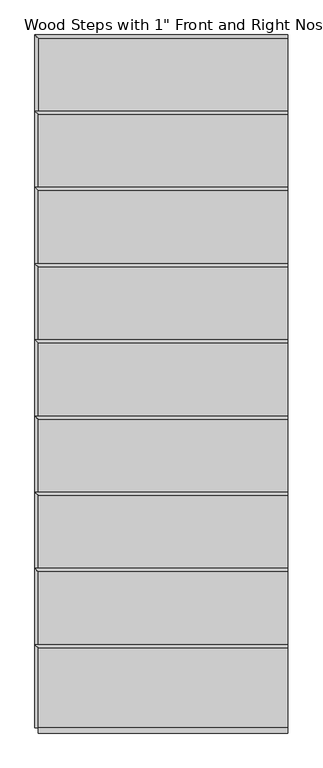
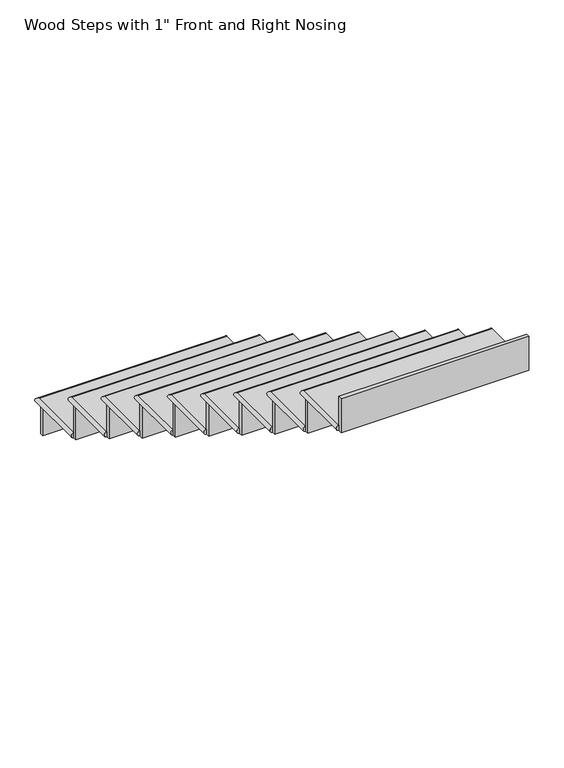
"""IFC4 building model written with IfcOpenShell, lengths in millimetres: stair flight geometry."""

from ifc_helpers import new_model, si_unit, frame, origin, place, context, project, spatial, circle_curve, ellipse_curve, faceted_brep, source, transform, mapped, element, save
from ifc_brep_helpers import plane_surface, cylinder_surface, advanced_brep


def stair_flight_06a28670(model_context):
    return source(origin(), model_context, "Body", "SolidModel", [
        advanced_brep(
        [(-6201.7730992, 2152.4297697, 148.7714286), (-6201.7730992, 2152.4297697, 174.1714286), (-6201.7730992, 2444.5297697, 174.1714286), (-6201.7730992, 2444.5297697, 148.7714286), (-5287.3730992, 2444.5297697, 174.1714286), (-5287.3730992, 2444.5297697, 148.7714286), (-5287.3730992, 2152.4297697, 174.1714286), (-5287.3730992, 2152.4297697, 148.7714286)],
        [
            (0, 1, circle_curve(frame((-6201.7730992, 2152.4297697, 161.4714286), z_axis=(0.0, 1.0, 0.0), x_axis=(1.0, 0.0, 0.0)), 12.7)),
            (1, 2),
            (2, 3, ellipse_curve(frame((-6201.7730992, 2444.5297697, 161.4714286), z_axis=(-0.7071067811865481, -0.7071067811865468, 0.0), x_axis=(0.7071067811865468, -0.7071067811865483, 0.0)), 17.9605122, 12.7)),
            (3, 0),
            (2, 4),
            (4, 5, circle_curve(frame((-5287.3730992, 2444.5297697, 161.4714286), z_axis=(-1.0, 0.0, 0.0), x_axis=(0.0, -1.0, 0.0)), 12.7)),
            (5, 3),
            (6, 4),
            (1, 6),
            (5, 7),
            (7, 0),
            (6, 7),
        ],
        [
            cylinder_surface(frame((-6201.7730992, 2152.4297697, 161.4714286), z_axis=(0.0, -1.0, 0.0), x_axis=(1.0, 0.0, 0.0)), 12.7),
            cylinder_surface(frame((-6201.7730992, 2444.5297697, 161.4714286), z_axis=(-1.0, 0.0, 0.0), x_axis=(0.0, -1.0, 0.0)), 12.7),
            plane_surface(frame((-5287.3730992, 2457.2297697, 174.1714286), z_axis=(0.0, 0.0, 1.0), x_axis=(0.0, 1.0, 0.0))),
            plane_surface(frame((-5287.3730992, 2457.2297697, 148.7714286), z_axis=(0.0, 0.0, -1.0), x_axis=(0.0, -1.0, 0.0))),
            plane_surface(frame((-5287.3730992, 2152.4297697, 174.1714286), z_axis=(1.0, 0.0, 0.0), x_axis=(0.0, 0.0, -1.0))),
            plane_surface(frame((-6201.7730992, 2152.4297697, 174.1714286), z_axis=(0.0, -1.0, 0.0), x_axis=(0.0, 0.0, -1.0))),
        ],
        [
            (0, [[1, 2, 3, 4]]),
            (1, [[-3, 5, 6, 7]]),
            (2, [[8, -5, -2, 9]]),
            (3, [[10, 11, -4, -7]]),
            (4, [[-8, 12, -10, -6]]),
            (5, [[-9, -1, -11, -12]]),
        ],
    ),
        faceted_brep([(-6201.7730992, 2431.8297697, 148.7714286), (-6201.7730992, 2431.8297697, 0.0), (-6201.7730992, 2412.7797697, 0.0), (-6201.7730992, 2412.7797697, 148.7714286), (-5287.3730992, 2431.8297697, 148.7714286), (-5287.3730992, 2412.7797697, 148.7714286), (-5287.3730992, 2412.7797697, 0.0), (-5287.3730992, 2431.8297697, 0.0)], [[[0, 1, 2, 3]], [[4, 5, 6, 7]], [[1, 0, 4, 7]], [[2, 1, 7, 6]], [[3, 2, 6, 5]], [[0, 3, 5, 4]]]),
        faceted_brep([(-6201.7730992, 2152.4297697, 322.9428571), (-6201.7730992, 2152.4297697, 148.7714286), (-6201.7730992, 2133.3797697, 148.7714286), (-6201.7730992, 2133.3797697, 322.9428571), (-5287.3730992, 2152.4297697, 322.9428571), (-5287.3730992, 2133.3797697, 322.9428571), (-5287.3730992, 2133.3797697, 148.7714286), (-5287.3730992, 2152.4297697, 148.7714286)], [[[0, 1, 2, 3]], [[4, 5, 6, 7]], [[1, 0, 4, 7]], [[2, 1, 7, 6]], [[3, 2, 6, 5]], [[0, 3, 5, 4]]]),
        advanced_brep(
        [(-5287.3730992, 1873.0297697, 348.3428571), (-5287.3730992, 2165.1297697, 348.3428571), (-6201.7730992, 2165.1297697, 348.3428571), (-6201.7730992, 1873.0297697, 348.3428571), (-5287.3730992, 2165.1297697, 322.9428571), (-5287.3730992, 1873.0297697, 322.9428571), (-6201.7730992, 1873.0297697, 322.9428571), (-6201.7730992, 2165.1297697, 322.9428571)],
        [
            (0, 1),
            (1, 2),
            (2, 3),
            (3, 0),
            (4, 5),
            (5, 6),
            (6, 7),
            (7, 4),
            (0, 5),
            (4, 1, circle_curve(frame((-5287.3730992, 2165.1297697, 335.6428571), z_axis=(1.0, 0.0, 0.0), x_axis=(0.0, -1.0, 0.0)), 12.7)),
            (3, 6, circle_curve(frame((-6201.7730992, 1873.0297697, 335.6428571), z_axis=(0.0, -1.0, 0.0), x_axis=(1.0, 0.0, 0.0)), 12.7)),
            (2, 7, ellipse_curve(frame((-6201.7730992, 2165.1297697, 335.6428571), z_axis=(-0.7071067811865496, -0.7071067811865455, 0.0), x_axis=(0.7071067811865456, -0.7071067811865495, 0.0)), 17.9605122, 12.7)),
        ],
        [
            plane_surface(frame((-5287.3730992, 2457.2297697, 348.3428571), z_axis=(0.0, 0.0, 1.0), x_axis=(0.0, 1.0, 0.0))),
            plane_surface(frame((-5287.3730992, 2457.2297697, 322.9428571), z_axis=(0.0, 0.0, -1.0), x_axis=(0.0, -1.0, 0.0))),
            plane_surface(frame((-5287.3730992, 1873.0297697, 348.3428571), z_axis=(1.0, 0.0, 0.0), x_axis=(0.0, 0.0, -1.0))),
            plane_surface(frame((-6201.7730992, 1873.0297697, 348.3428571), z_axis=(0.0, -1.0, 0.0), x_axis=(0.0, 0.0, -1.0))),
            cylinder_surface(frame((-6201.7730992, 1873.0297697, 335.6428571), z_axis=(0.0, -1.0, 0.0), x_axis=(1.0, 0.0, 0.0)), 12.7),
            cylinder_surface(frame((-6201.7730992, 2165.1297697, 335.6428571), z_axis=(-1.0, 0.0, 0.0), x_axis=(0.0, -1.0, 0.0)), 12.7),
        ],
        [
            (0, [[1, 2, 3, 4]]),
            (1, [[5, 6, 7, 8]]),
            (2, [[-1, 9, -5, 10]]),
            (3, [[-4, 11, -6, -9]]),
            (4, [[-11, -3, 12, -7]]),
            (5, [[-12, -2, -10, -8]]),
        ],
    ),
        faceted_brep([(-6201.7730992, 1873.0297697, 497.1142857), (-6201.7730992, 1873.0297697, 322.9428571), (-6201.7730992, 1853.9797697, 322.9428571), (-6201.7730992, 1853.9797697, 497.1142857), (-5287.3730992, 1873.0297697, 497.1142857), (-5287.3730992, 1853.9797697, 497.1142857), (-5287.3730992, 1853.9797697, 322.9428571), (-5287.3730992, 1873.0297697, 322.9428571)], [[[0, 1, 2, 3]], [[4, 5, 6, 7]], [[1, 0, 4, 7]], [[2, 1, 7, 6]], [[3, 2, 6, 5]], [[0, 3, 5, 4]]]),
        advanced_brep(
        [(-5287.3730992, 1593.6297697, 522.5142857), (-5287.3730992, 1885.7297697, 522.5142857), (-6201.7730992, 1885.7297697, 522.5142857), (-6201.7730992, 1593.6297697, 522.5142857), (-5287.3730992, 1885.7297697, 497.1142857), (-5287.3730992, 1593.6297697, 497.1142857), (-6201.7730992, 1593.6297697, 497.1142857), (-6201.7730992, 1885.7297697, 497.1142857)],
        [
            (0, 1),
            (1, 2),
            (2, 3),
            (3, 0),
            (4, 5),
            (5, 6),
            (6, 7),
            (7, 4),
            (0, 5),
            (4, 1, circle_curve(frame((-5287.3730992, 1885.7297697, 509.8142857), z_axis=(1.0, 0.0, 0.0), x_axis=(0.0, -1.0, 0.0)), 12.7)),
            (3, 6, circle_curve(frame((-6201.7730992, 1593.6297697, 509.8142857), z_axis=(0.0, -1.0, 0.0), x_axis=(1.0, 0.0, 0.0)), 12.7)),
            (2, 7, ellipse_curve(frame((-6201.7730992, 1885.7297697, 509.8142857), z_axis=(-0.7071067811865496, -0.7071067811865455, 0.0), x_axis=(0.7071067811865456, -0.7071067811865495, 0.0)), 17.9605122, 12.7)),
        ],
        [
            plane_surface(frame((-5287.3730992, 2177.8297697, 522.5142857), z_axis=(0.0, 0.0, 1.0), x_axis=(0.0, 1.0, 0.0))),
            plane_surface(frame((-5287.3730992, 2177.8297697, 497.1142857), z_axis=(0.0, 0.0, -1.0), x_axis=(0.0, -1.0, 0.0))),
            plane_surface(frame((-5287.3730992, 1593.6297697, 522.5142857), z_axis=(1.0, 0.0, 0.0), x_axis=(0.0, 0.0, -1.0))),
            plane_surface(frame((-6201.7730992, 1593.6297697, 522.5142857), z_axis=(0.0, -1.0, 0.0), x_axis=(0.0, 0.0, -1.0))),
            cylinder_surface(frame((-6201.7730992, 1593.6297697, 509.8142857), z_axis=(0.0, -1.0, 0.0), x_axis=(1.0, 0.0, 0.0)), 12.7),
            cylinder_surface(frame((-6201.7730992, 1885.7297697, 509.8142857), z_axis=(-1.0, 0.0, 0.0), x_axis=(0.0, -1.0, 0.0)), 12.7),
        ],
        [
            (0, [[1, 2, 3, 4]]),
            (1, [[5, 6, 7, 8]]),
            (2, [[-1, 9, -5, 10]]),
            (3, [[-4, 11, -6, -9]]),
            (4, [[-11, -3, 12, -7]]),
            (5, [[-12, -2, -10, -8]]),
        ],
    ),
        faceted_brep([(-6201.7730992, 1593.6297697, 671.2857143), (-6201.7730992, 1593.6297697, 497.1142857), (-6201.7730992, 1574.5797697, 497.1142857), (-6201.7730992, 1574.5797697, 671.2857143), (-5287.3730992, 1593.6297697, 671.2857143), (-5287.3730992, 1574.5797697, 671.2857143), (-5287.3730992, 1574.5797697, 497.1142857), (-5287.3730992, 1593.6297697, 497.1142857)], [[[0, 1, 2, 3]], [[4, 5, 6, 7]], [[1, 0, 4, 7]], [[2, 1, 7, 6]], [[3, 2, 6, 5]], [[0, 3, 5, 4]]]),
        advanced_brep(
        [(-5287.3730992, 1314.2297697, 696.6857143), (-5287.3730992, 1606.3297697, 696.6857143), (-6201.7730992, 1606.3297697, 696.6857143), (-6201.7730992, 1314.2297697, 696.6857143), (-5287.3730992, 1606.3297697, 671.2857143), (-5287.3730992, 1314.2297697, 671.2857143), (-6201.7730992, 1314.2297697, 671.2857143), (-6201.7730992, 1606.3297697, 671.2857143)],
        [
            (0, 1),
            (1, 2),
            (2, 3),
            (3, 0),
            (4, 5),
            (5, 6),
            (6, 7),
            (7, 4),
            (0, 5),
            (4, 1, circle_curve(frame((-5287.3730992, 1606.3297697, 683.9857143), z_axis=(1.0, 0.0, 0.0), x_axis=(0.0, -1.0, 0.0)), 12.7)),
            (3, 6, circle_curve(frame((-6201.7730992, 1314.2297697, 683.9857143), z_axis=(0.0, -1.0, 0.0), x_axis=(1.0, 0.0, 0.0)), 12.7)),
            (2, 7, ellipse_curve(frame((-6201.7730992, 1606.3297697, 683.9857143), z_axis=(-0.7071067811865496, -0.7071067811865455, 0.0), x_axis=(0.7071067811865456, -0.7071067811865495, 0.0)), 17.9605122, 12.7)),
        ],
        [
            plane_surface(frame((-5287.3730992, 1898.4297697, 696.6857143), z_axis=(0.0, 0.0, 1.0), x_axis=(0.0, 1.0, 0.0))),
            plane_surface(frame((-5287.3730992, 1898.4297697, 671.2857143), z_axis=(0.0, 0.0, -1.0), x_axis=(0.0, -1.0, 0.0))),
            plane_surface(frame((-5287.3730992, 1314.2297697, 696.6857143), z_axis=(1.0, 0.0, 0.0), x_axis=(0.0, 0.0, -1.0))),
            plane_surface(frame((-6201.7730992, 1314.2297697, 696.6857143), z_axis=(0.0, -1.0, 0.0), x_axis=(0.0, 0.0, -1.0))),
            cylinder_surface(frame((-6201.7730992, 1314.2297697, 683.9857143), z_axis=(0.0, -1.0, 0.0), x_axis=(1.0, 0.0, 0.0)), 12.7),
            cylinder_surface(frame((-6201.7730992, 1606.3297697, 683.9857143), z_axis=(-1.0, 0.0, 0.0), x_axis=(0.0, -1.0, 0.0)), 12.7),
        ],
        [
            (0, [[1, 2, 3, 4]]),
            (1, [[5, 6, 7, 8]]),
            (2, [[-1, 9, -5, 10]]),
            (3, [[-4, 11, -6, -9]]),
            (4, [[-11, -3, 12, -7]]),
            (5, [[-12, -2, -10, -8]]),
        ],
    ),
        faceted_brep([(-6201.7730992, 1314.2297697, 845.4571429), (-6201.7730992, 1314.2297697, 671.2857143), (-6201.7730992, 1295.1797697, 671.2857143), (-6201.7730992, 1295.1797697, 845.4571429), (-5287.3730992, 1314.2297697, 845.4571429), (-5287.3730992, 1295.1797697, 845.4571429), (-5287.3730992, 1295.1797697, 671.2857143), (-5287.3730992, 1314.2297697, 671.2857143)], [[[0, 1, 2, 3]], [[4, 5, 6, 7]], [[1, 0, 4, 7]], [[2, 1, 7, 6]], [[3, 2, 6, 5]], [[0, 3, 5, 4]]]),
        advanced_brep(
        [(-5287.3730992, 1034.8297697, 870.8571429), (-5287.3730992, 1326.9297697, 870.8571429), (-6201.7730992, 1326.9297697, 870.8571429), (-6201.7730992, 1034.8297697, 870.8571429), (-5287.3730992, 1326.9297697, 845.4571429), (-5287.3730992, 1034.8297697, 845.4571429), (-6201.7730992, 1034.8297697, 845.4571429), (-6201.7730992, 1326.9297697, 845.4571429)],
        [
            (0, 1),
            (1, 2),
            (2, 3),
            (3, 0),
            (4, 5),
            (5, 6),
            (6, 7),
            (7, 4),
            (0, 5),
            (4, 1, circle_curve(frame((-5287.3730992, 1326.9297697, 858.1571429), z_axis=(1.0, 0.0, 0.0), x_axis=(0.0, -1.0, 0.0)), 12.7)),
            (3, 6, circle_curve(frame((-6201.7730992, 1034.8297697, 858.1571429), z_axis=(0.0, -1.0, 0.0), x_axis=(1.0, 0.0, 0.0)), 12.7)),
            (2, 7, ellipse_curve(frame((-6201.7730992, 1326.9297697, 858.1571429), z_axis=(-0.7071067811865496, -0.7071067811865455, 0.0), x_axis=(0.7071067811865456, -0.7071067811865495, 0.0)), 17.9605122, 12.7)),
        ],
        [
            plane_surface(frame((-5287.3730992, 1619.0297697, 870.8571429), z_axis=(0.0, 0.0, 1.0), x_axis=(0.0, 1.0, 0.0))),
            plane_surface(frame((-5287.3730992, 1619.0297697, 845.4571429), z_axis=(0.0, 0.0, -1.0), x_axis=(0.0, -1.0, 0.0))),
            plane_surface(frame((-5287.3730992, 1034.8297697, 870.8571429), z_axis=(1.0, 0.0, 0.0), x_axis=(0.0, 0.0, -1.0))),
            plane_surface(frame((-6201.7730992, 1034.8297697, 870.8571429), z_axis=(0.0, -1.0, 0.0), x_axis=(0.0, 0.0, -1.0))),
            cylinder_surface(frame((-6201.7730992, 1034.8297697, 858.1571429), z_axis=(0.0, -1.0, 0.0), x_axis=(1.0, 0.0, 0.0)), 12.7),
            cylinder_surface(frame((-6201.7730992, 1326.9297697, 858.1571429), z_axis=(-1.0, 0.0, 0.0), x_axis=(0.0, -1.0, 0.0)), 12.7),
        ],
        [
            (0, [[1, 2, 3, 4]]),
            (1, [[5, 6, 7, 8]]),
            (2, [[-1, 9, -5, 10]]),
            (3, [[-4, 11, -6, -9]]),
            (4, [[-11, -3, 12, -7]]),
            (5, [[-12, -2, -10, -8]]),
        ],
    ),
        faceted_brep([(-6201.7730992, 1034.8297697, 1019.6285714), (-6201.7730992, 1034.8297697, 845.4571429), (-6201.7730992, 1015.7797697, 845.4571429), (-6201.7730992, 1015.7797697, 1019.6285714), (-5287.3730992, 1034.8297697, 1019.6285714), (-5287.3730992, 1015.7797697, 1019.6285714), (-5287.3730992, 1015.7797697, 845.4571429), (-5287.3730992, 1034.8297697, 845.4571429)], [[[0, 1, 2, 3]], [[4, 5, 6, 7]], [[1, 0, 4, 7]], [[2, 1, 7, 6]], [[3, 2, 6, 5]], [[0, 3, 5, 4]]]),
        advanced_brep(
        [(-5287.3730992, 755.4297697, 1045.0285714), (-5287.3730992, 1047.5297697, 1045.0285714), (-6201.7730992, 1047.5297697, 1045.0285714), (-6201.7730992, 755.4297697, 1045.0285714), (-5287.3730992, 1047.5297697, 1019.6285714), (-5287.3730992, 755.4297697, 1019.6285714), (-6201.7730992, 755.4297697, 1019.6285714), (-6201.7730992, 1047.5297697, 1019.6285714)],
        [
            (0, 1),
            (1, 2),
            (2, 3),
            (3, 0),
            (4, 5),
            (5, 6),
            (6, 7),
            (7, 4),
            (0, 5),
            (4, 1, circle_curve(frame((-5287.3730992, 1047.5297697, 1032.3285714), z_axis=(1.0, 0.0, 0.0), x_axis=(0.0, -1.0, 0.0)), 12.7)),
            (3, 6, circle_curve(frame((-6201.7730992, 755.4297697, 1032.3285714), z_axis=(0.0, -1.0, 0.0), x_axis=(1.0, 0.0, 0.0)), 12.7)),
            (2, 7, ellipse_curve(frame((-6201.7730992, 1047.5297697, 1032.3285714), z_axis=(-0.7071067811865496, -0.7071067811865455, 0.0), x_axis=(0.7071067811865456, -0.7071067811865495, 0.0)), 17.9605122, 12.7)),
        ],
        [
            plane_surface(frame((-5287.3730992, 1339.6297697, 1045.0285714), z_axis=(0.0, 0.0, 1.0), x_axis=(0.0, 1.0, 0.0))),
            plane_surface(frame((-5287.3730992, 1339.6297697, 1019.6285714), z_axis=(0.0, 0.0, -1.0), x_axis=(0.0, -1.0, 0.0))),
            plane_surface(frame((-5287.3730992, 755.4297697, 1045.0285714), z_axis=(1.0, 0.0, 0.0), x_axis=(0.0, 0.0, -1.0))),
            plane_surface(frame((-6201.7730992, 755.4297697, 1045.0285714), z_axis=(0.0, -1.0, 0.0), x_axis=(0.0, 0.0, -1.0))),
            cylinder_surface(frame((-6201.7730992, 755.4297697, 1032.3285714), z_axis=(0.0, -1.0, 0.0), x_axis=(1.0, 0.0, 0.0)), 12.7),
            cylinder_surface(frame((-6201.7730992, 1047.5297697, 1032.3285714), z_axis=(-1.0, 0.0, 0.0), x_axis=(0.0, -1.0, 0.0)), 12.7),
        ],
        [
            (0, [[1, 2, 3, 4]]),
            (1, [[5, 6, 7, 8]]),
            (2, [[-1, 9, -5, 10]]),
            (3, [[-4, 11, -6, -9]]),
            (4, [[-11, -3, 12, -7]]),
            (5, [[-12, -2, -10, -8]]),
        ],
    ),
        faceted_brep([(-6201.7730992, 755.4297697, 1193.8), (-6201.7730992, 755.4297697, 1019.6285714), (-6201.7730992, 736.3797697, 1019.6285714), (-6201.7730992, 736.3797697, 1193.8), (-5287.3730992, 755.4297697, 1193.8), (-5287.3730992, 736.3797697, 1193.8), (-5287.3730992, 736.3797697, 1019.6285714), (-5287.3730992, 755.4297697, 1019.6285714)], [[[0, 1, 2, 3]], [[4, 5, 6, 7]], [[1, 0, 4, 7]], [[2, 1, 7, 6]], [[3, 2, 6, 5]], [[0, 3, 5, 4]]]),
        advanced_brep(
        [(-5287.3730992, 476.0297697, 1219.2), (-5287.3730992, 768.1297697, 1219.2), (-6201.7730992, 768.1297697, 1219.2), (-6201.7730992, 476.0297697, 1219.2), (-5287.3730992, 768.1297697, 1193.8), (-5287.3730992, 476.0297697, 1193.8), (-6201.7730992, 476.0297697, 1193.8), (-6201.7730992, 768.1297697, 1193.8)],
        [
            (0, 1),
            (1, 2),
            (2, 3),
            (3, 0),
            (4, 5),
            (5, 6),
            (6, 7),
            (7, 4),
            (0, 5),
            (4, 1, circle_curve(frame((-5287.3730992, 768.1297697, 1206.5), z_axis=(1.0, 0.0, 0.0), x_axis=(0.0, -1.0, 0.0)), 12.7)),
            (3, 6, circle_curve(frame((-6201.7730992, 476.0297697, 1206.5), z_axis=(0.0, -1.0, 0.0), x_axis=(1.0, 0.0, 0.0)), 12.7)),
            (2, 7, ellipse_curve(frame((-6201.7730992, 768.1297697, 1206.5), z_axis=(-0.7071067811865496, -0.7071067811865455, 0.0), x_axis=(0.7071067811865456, -0.7071067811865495, 0.0)), 17.9605122, 12.7)),
        ],
        [
            plane_surface(frame((-5287.3730992, 1060.2297697, 1219.2), z_axis=(0.0, 0.0, 1.0), x_axis=(0.0, 1.0, 0.0))),
            plane_surface(frame((-5287.3730992, 1060.2297697, 1193.8), z_axis=(0.0, 0.0, -1.0), x_axis=(0.0, -1.0, 0.0))),
            plane_surface(frame((-5287.3730992, 476.0297697, 1219.2), z_axis=(1.0, 0.0, 0.0), x_axis=(0.0, 0.0, -1.0))),
            plane_surface(frame((-6201.7730992, 476.0297697, 1219.2), z_axis=(0.0, -1.0, 0.0), x_axis=(0.0, 0.0, -1.0))),
            cylinder_surface(frame((-6201.7730992, 476.0297697, 1206.5), z_axis=(0.0, -1.0, 0.0), x_axis=(1.0, 0.0, 0.0)), 12.7),
            cylinder_surface(frame((-6201.7730992, 768.1297697, 1206.5), z_axis=(-1.0, 0.0, 0.0), x_axis=(0.0, -1.0, 0.0)), 12.7),
        ],
        [
            (0, [[1, 2, 3, 4]]),
            (1, [[5, 6, 7, 8]]),
            (2, [[-1, 9, -5, 10]]),
            (3, [[-4, 11, -6, -9]]),
            (4, [[-11, -3, 12, -7]]),
            (5, [[-12, -2, -10, -8]]),
        ],
    ),
        faceted_brep([(-6201.7730992, 476.0297697, 1367.9714286), (-6201.7730992, 476.0297697, 1193.8), (-6201.7730992, 456.9797697, 1193.8), (-6201.7730992, 456.9797697, 1367.9714286), (-5287.3730992, 476.0297697, 1367.9714286), (-5287.3730992, 456.9797697, 1367.9714286), (-5287.3730992, 456.9797697, 1193.8), (-5287.3730992, 476.0297697, 1193.8)], [[[0, 1, 2, 3]], [[4, 5, 6, 7]], [[1, 0, 4, 7]], [[2, 1, 7, 6]], [[3, 2, 6, 5]], [[0, 3, 5, 4]]]),
        advanced_brep(
        [(-5287.3730992, 196.6297697, 1393.3714286), (-5287.3730992, 488.7297697, 1393.3714286), (-6201.7730992, 488.7297697, 1393.3714286), (-6201.7730992, 196.6297697, 1393.3714286), (-5287.3730992, 488.7297697, 1367.9714286), (-5287.3730992, 196.6297697, 1367.9714286), (-6201.7730992, 196.6297697, 1367.9714286), (-6201.7730992, 488.7297697, 1367.9714286)],
        [
            (0, 1),
            (1, 2),
            (2, 3),
            (3, 0),
            (4, 5),
            (5, 6),
            (6, 7),
            (7, 4),
            (0, 5),
            (4, 1, circle_curve(frame((-5287.3730992, 488.7297697, 1380.6714286), z_axis=(1.0, 0.0, 0.0), x_axis=(0.0, -1.0, 0.0)), 12.7)),
            (3, 6, circle_curve(frame((-6201.7730992, 196.6297697, 1380.6714286), z_axis=(0.0, -1.0, 0.0), x_axis=(1.0, 0.0, 0.0)), 12.7)),
            (2, 7, ellipse_curve(frame((-6201.7730992, 488.7297697, 1380.6714286), z_axis=(-0.7071067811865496, -0.7071067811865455, 0.0), x_axis=(0.7071067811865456, -0.7071067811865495, 0.0)), 17.9605122, 12.7)),
        ],
        [
            plane_surface(frame((-5287.3730992, 780.8297697, 1393.3714286), z_axis=(0.0, 0.0, 1.0), x_axis=(0.0, 1.0, 0.0))),
            plane_surface(frame((-5287.3730992, 780.8297697, 1367.9714286), z_axis=(0.0, 0.0, -1.0), x_axis=(0.0, -1.0, 0.0))),
            plane_surface(frame((-5287.3730992, 196.6297697, 1393.3714286), z_axis=(1.0, 0.0, 0.0), x_axis=(0.0, 0.0, -1.0))),
            plane_surface(frame((-6201.7730992, 196.6297697, 1393.3714286), z_axis=(0.0, -1.0, 0.0), x_axis=(0.0, 0.0, -1.0))),
            cylinder_surface(frame((-6201.7730992, 196.6297697, 1380.6714286), z_axis=(0.0, -1.0, 0.0), x_axis=(1.0, 0.0, 0.0)), 12.7),
            cylinder_surface(frame((-6201.7730992, 488.7297697, 1380.6714286), z_axis=(-1.0, 0.0, 0.0), x_axis=(0.0, -1.0, 0.0)), 12.7),
        ],
        [
            (0, [[1, 2, 3, 4]]),
            (1, [[5, 6, 7, 8]]),
            (2, [[-1, 9, -5, 10]]),
            (3, [[-4, 11, -6, -9]]),
            (4, [[-11, -3, 12, -7]]),
            (5, [[-12, -2, -10, -8]]),
        ],
    ),
        faceted_brep([(-6201.7730992, 196.6297697, 1542.1428571), (-6201.7730992, 196.6297697, 1367.9714286), (-6201.7730992, 177.5797697, 1367.9714286), (-6201.7730992, 177.5797697, 1542.1428571), (-5287.3730992, 196.6297697, 1542.1428571), (-5287.3730992, 177.5797697, 1542.1428571), (-5287.3730992, 177.5797697, 1367.9714286), (-5287.3730992, 196.6297697, 1367.9714286)], [[[0, 1, 2, 3]], [[4, 5, 6, 7]], [[1, 0, 4, 7]], [[2, 1, 7, 6]], [[3, 2, 6, 5]], [[0, 3, 5, 4]]]),
        faceted_brep([(-6201.7730992, -82.7702303, 1716.3142857), (-6201.7730992, -82.7702303, 1542.1428571), (-6201.7730992, -101.8202303, 1542.1428571), (-6201.7730992, -101.8202303, 1716.3142857), (-5287.3730992, -82.7702303, 1716.3142857), (-5287.3730992, -101.8202303, 1716.3142857), (-5287.3730992, -101.8202303, 1542.1428571), (-5287.3730992, -82.7702303, 1542.1428571)], [[[0, 1, 2, 3]], [[4, 5, 6, 7]], [[1, 0, 4, 7]], [[2, 1, 7, 6]], [[3, 2, 6, 5]], [[0, 3, 5, 4]]]),
        advanced_brep(
        [(-5287.3730992, -82.7702303, 1567.5428571), (-5287.3730992, 209.3297697, 1567.5428571), (-6201.7730992, 209.3297697, 1567.5428571), (-6201.7730992, -82.7702303, 1567.5428571), (-5287.3730992, 209.3297697, 1542.1428571), (-5287.3730992, -82.7702303, 1542.1428571), (-6201.7730992, -82.7702303, 1542.1428571), (-6201.7730992, 209.3297697, 1542.1428571)],
        [
            (0, 1),
            (1, 2),
            (2, 3),
            (3, 0),
            (4, 5),
            (5, 6),
            (6, 7),
            (7, 4),
            (0, 5),
            (4, 1, circle_curve(frame((-5287.3730992, 209.3297697, 1554.8428571), z_axis=(1.0, 0.0, 0.0), x_axis=(0.0, -1.0, 0.0)), 12.7)),
            (3, 6, circle_curve(frame((-6201.7730992, -82.7702303, 1554.8428571), z_axis=(0.0, -1.0, 0.0), x_axis=(1.0, 0.0, 0.0)), 12.7)),
            (2, 7, ellipse_curve(frame((-6201.7730992, 209.3297697, 1554.8428571), z_axis=(-0.7071067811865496, -0.7071067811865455, 0.0), x_axis=(0.7071067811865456, -0.7071067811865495, 0.0)), 17.9605122, 12.7)),
        ],
        [
            plane_surface(frame((-5287.3730992, 501.4297697, 1567.5428571), z_axis=(0.0, 0.0, 1.0), x_axis=(0.0, 1.0, 0.0))),
            plane_surface(frame((-5287.3730992, 501.4297697, 1542.1428571), z_axis=(0.0, 0.0, -1.0), x_axis=(0.0, -1.0, 0.0))),
            plane_surface(frame((-5287.3730992, -82.7702303, 1567.5428571), z_axis=(1.0, 0.0, 0.0), x_axis=(0.0, 0.0, -1.0))),
            plane_surface(frame((-6201.7730992, -82.7702303, 1567.5428571), z_axis=(0.0, -1.0, 0.0), x_axis=(0.0, 0.0, -1.0))),
            cylinder_surface(frame((-6201.7730992, -82.7702303, 1554.8428571), z_axis=(0.0, -1.0, 0.0), x_axis=(1.0, 0.0, 0.0)), 12.7),
            cylinder_surface(frame((-6201.7730992, 209.3297697, 1554.8428571), z_axis=(-1.0, 0.0, 0.0), x_axis=(0.0, -1.0, 0.0)), 12.7),
        ],
        [
            (0, [[1, 2, 3, 4]]),
            (1, [[5, 6, 7, 8]]),
            (2, [[-1, 9, -5, 10]]),
            (3, [[-4, 11, -6, -9]]),
            (4, [[-11, -3, 12, -7]]),
            (5, [[-12, -2, -10, -8]]),
        ],
    ),
    ])


if __name__ == "__main__":
    model = new_model("IFC4")
    model_context = context("Model", 3, world=origin())
    ifc_project = project(units=[si_unit("LENGTHUNIT", "METRE", prefix="MILLI")], contexts=[model_context])
    site = spatial("IfcSite", under=ifc_project)
    building = spatial("IfcBuilding", under=site)
    placement = place(None, origin())
    stair_flight_shape = stair_flight_06a28670(model_context)
    element("IfcStairFlight", 1, ObjectType="Wood Steps with 1\" Front and Right Nosing", at=placement, inside=building, context=model_context, shape_type="MappedRepresentation", body=[
        mapped(stair_flight_shape, transform((0.0, 0.0, 0.0), x_axis=(1.0, 0.0, 0.0), y_axis=(0.0, 1.0, 0.0), z_axis=(0.0, 0.0, 1.0))),
    ])
    save(model, "model.ifc")
